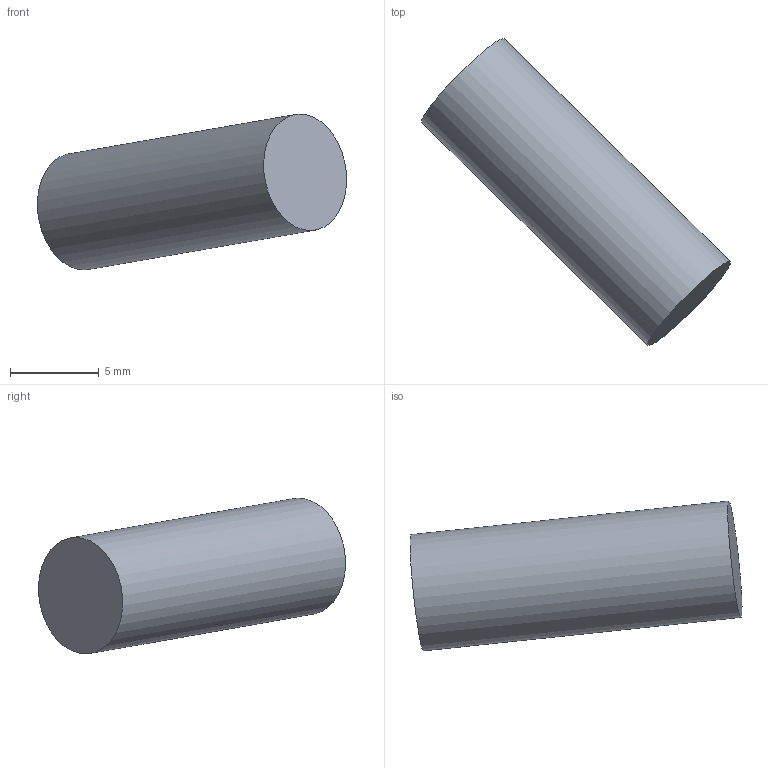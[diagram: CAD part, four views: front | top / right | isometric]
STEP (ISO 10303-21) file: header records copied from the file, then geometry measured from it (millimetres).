
FILE_DESCRIPTION(('Open CASCADE Model'),'2;1');
FILE_NAME('Open CASCADE Shape Model','2026-11-24T19:57:38',('Author'),( 'Open CASCADE'),'Open CASCADE STEP processor 7.8','Open CASCADE 7.8' ,'Unknown');
FILE_SCHEMA(('AUTOMOTIVE_DESIGN { 1 0 10303 214 1 1 1 1 }'));
Length unit declared in the file: millimetre
Products named in the file (1): Open CASCADE STEP translator 7.8 27
Bounding box: 17.39 x 17.26 x 8.76 mm (x, y, z)
Volume: 615.8 mm3; surface area: 441.6 mm2
Topology: 1 solids, 1 shells, 3 faces, 3 edges, 2 vertices
Faces by surface type: plane 2, cylinder 1
Full cylindrical faces by diameter (mm): 6.6 x1
Entity records: 107 total; most frequent: DIRECTION 18, CARTESIAN_POINT 16, AXIS2_PLACEMENT_3D 6, ORIENTED_EDGE 6, PCURVE 6, DEFINITIONAL_REPRESENTATION 6, CIRCLE 4, LINE 4
